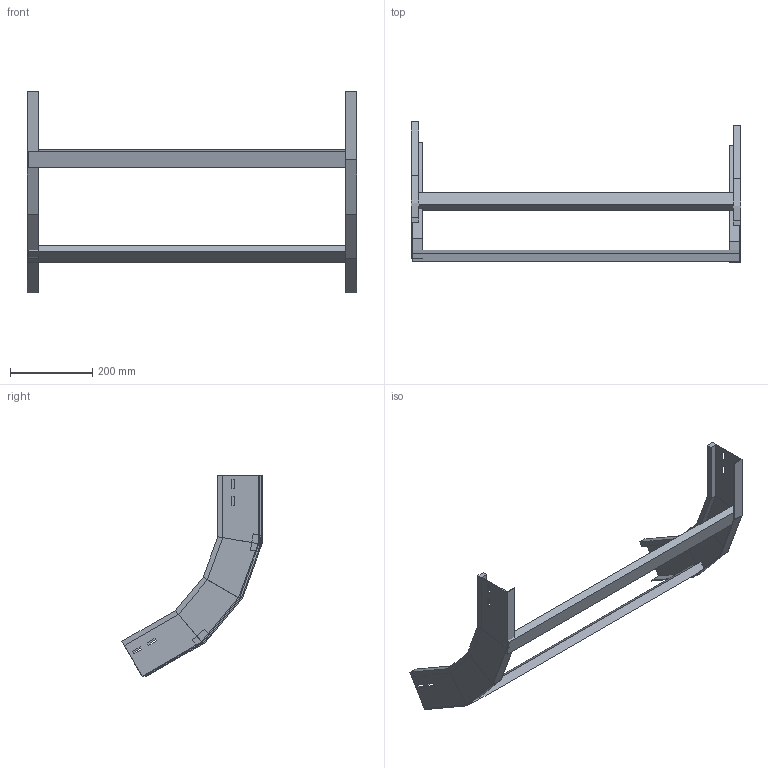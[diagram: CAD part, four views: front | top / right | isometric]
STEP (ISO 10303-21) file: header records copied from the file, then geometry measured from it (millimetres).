
FILE_DESCRIPTION (( 'STEP AP214' ), '1' );
FILE_NAME ('A2X40B3D800XX.step', '2025-04-02T09:50:24', ( '' ), ( '' ), 'SwSTEP 2.0', 'SolidWorks 2023', '' );
FILE_SCHEMA (( 'AUTOMOTIVE_DESIGN' ));
Length unit declared in the file: millimetre
Products named in the file (3): TRAVERSINO_800; A2X40B3D800XX; LONGH.SALITA_60°_H100_R300
Assembly tree (4 placements, depth 2):
  A2X40B3D800XX
    LONGH.SALITA_60°_H100_R300  x2
    TRAVERSINO_800  x2
Bounding box: 800 x 340.82 x 490.76 mm (x, y, z)
Volume: 1771970 mm3; surface area: 520288.7 mm2
Topology: 4 solids, 4 shells, 112 faces, 264 edges, 160 vertices
Faces by surface type: plane 112
Entity records: 1664 total; most frequent: CARTESIAN_POINT 275, ORIENTED_EDGE 264, DIRECTION 258, LINE 132, EDGE_CURVE 132, VECTOR 132, VERTEX_POINT 80, EDGE_LOOP 64
